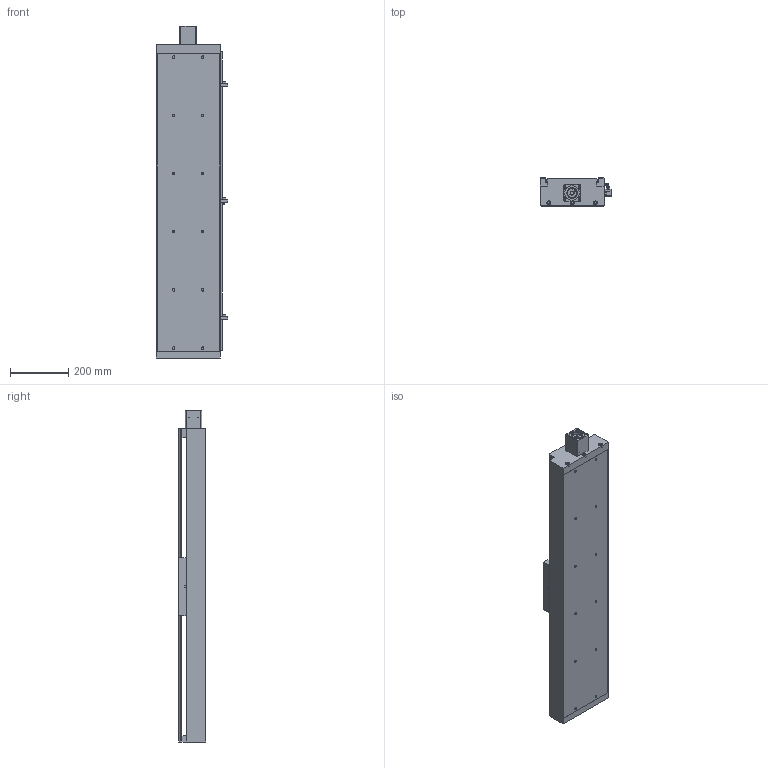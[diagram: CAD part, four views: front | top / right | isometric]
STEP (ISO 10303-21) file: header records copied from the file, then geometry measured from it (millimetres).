
FILE_DESCRIPTION((''),'2;1');
FILE_NAME('E:\libraries\UIA actuator library 2016\standard actuator\UIA220R20NDC\UIA220R20NDC ball screw 25\UIA220R20NDC-_ _ _-R25_ _ stp file, 01May16\UIA220R20NDC-800-R25_ _-M60-P13-C10-S.stp','2016-04-29T17:33:52',('h029'),(''),'Autodesk Inventor 11','Autodesk Inventor 11','');
FILE_SCHEMA(('AUTOMOTIVE_DESIGN { 1 0 10303 214 1 1 1 1 }'));
Length unit declared in the file: millimetre
Products named in the file (10): UIA220R20NDC-800-R25_ _; UIA220R20NDC-body; 41-100 0010 CARRIAGE; sensor rail; Sensor Switch; motor mount M60; SOH-32C; SOH-32C-3; SOH-32C-1; SOH-32C-2
Assembly tree (9 placements, depth 3):
  UIA220R20NDC-800-R25_ _
    UIA220R20NDC-body
    41-100 0010 CARRIAGE
    sensor rail
    Sensor Switch
    motor mount M60
    SOH-32C
      SOH-32C-3
      SOH-32C-1
      SOH-32C-2
Bounding box: 246.5 x 96 x 1141 mm (x, y, z)
Volume: 6696520.3 mm3; surface area: 1579425.7 mm2
Topology: 8 solids, 8 shells, 523 faces, 1389 edges, 913 vertices
Faces by surface type: plane 342, bspline 133, cylinder 46, cone 2
Full cylindrical faces by diameter (mm): 3.242 x2, 4.5 x2, 7 x4, 7.5 x2, 13.8 x3, 14 x6, 17 x1, 32 x3, 37 x1, 50.3 x1, 50.5 x1
Entity records: 17106 total; most frequent: CARTESIAN_POINT 4921, ORIENTED_EDGE 2360, DIRECTION 2309, EDGE_CURVE 1180, VECTOR 849, LINE 849, VERTEX_POINT 839, EDGE_LOOP 773
